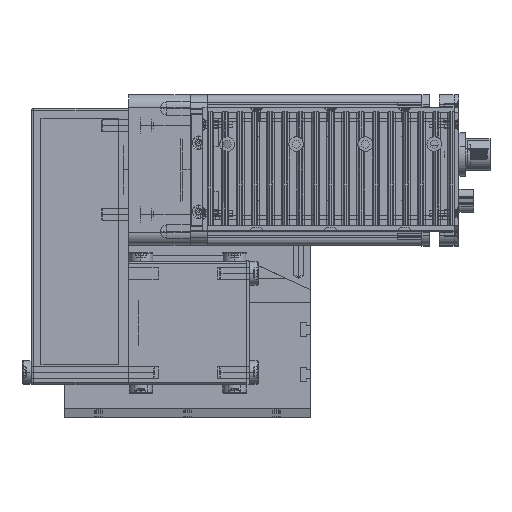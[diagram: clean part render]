
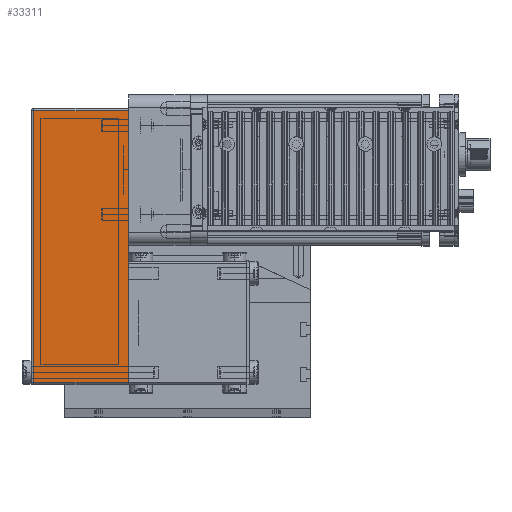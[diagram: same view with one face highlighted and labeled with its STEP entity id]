
A CAD part, top view. The second image highlights one B-rep face of the part: STEP entity #33311.
In plain terms, the highlighted planar face has unit normal (0, 0, 1) as drawn and (0, -1, 0) by its records, which use the part's own axes.
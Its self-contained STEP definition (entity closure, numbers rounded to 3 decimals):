
#9591 = LINE ( 'NONE', #10505, #10483 ) ;
#10481 = DIRECTION ( 'NONE',  ( 0., 0., 1. ) ) ;
#10483 = VECTOR ( 'NONE', #10481, 1000. ) ;
#10505 = CARTESIAN_POINT ( 'NONE',  ( -49., -25., 39.5 ) ) ;
#10674 = CARTESIAN_POINT ( 'NONE',  ( -49., -25., 0. ) ) ;
#10675 = CARTESIAN_POINT ( 'NONE',  ( -49., -25., 38.5 ) ) ;
#10814 = CARTESIAN_POINT ( 'NONE',  ( 61., -25., 38.5 ) ) ;
#10841 = CARTESIAN_POINT ( 'NONE',  ( 61., -25., 0. ) ) ;
#10852 = CARTESIAN_POINT ( 'NONE',  ( 61., -25., 39.5 ) ) ;
#10894 = DIRECTION ( 'NONE',  ( 0., 0., -1. ) ) ;
#10895 = VECTOR ( 'NONE', #10894, 1000. ) ;
#10902 = LINE ( 'NONE', #10852, #10895 ) ;
#11037 = LINE ( 'NONE', #11080, #11124 ) ;
#11079 = DIRECTION ( 'NONE',  ( 1., 0., 0. ) ) ;
#11080 = CARTESIAN_POINT ( 'NONE',  ( -50., -25., 38.5 ) ) ;
#11082 = FACE_OUTER_BOUND ( 'NONE', #33213, .T. ) ;
#11088 = PLANE ( 'NONE',  #11126 ) ;
#11116 = DIRECTION ( 'NONE',  ( 0., 0., 1. ) ) ;
#11117 = DIRECTION ( 'NONE',  ( 0., 1., 0. ) ) ;
#11122 = CARTESIAN_POINT ( 'NONE',  ( -50., -25., 39.5 ) ) ;
#11124 = VECTOR ( 'NONE', #11079, 1000. ) ;
#11126 = AXIS2_PLACEMENT_3D ( 'NONE', #11122, #11117, #11116 ) ;
#11149 = DIRECTION ( 'NONE',  ( 1., 0., 0. ) ) ;
#11150 = VECTOR ( 'NONE', #11149, 1000. ) ;
#11151 = CARTESIAN_POINT ( 'NONE',  ( -50., -25., 0. ) ) ;
#11164 = LINE ( 'NONE', #11151, #11150 ) ;
#32960 = VERTEX_POINT ( 'NONE', #10674 ) ;
#32963 = VERTEX_POINT ( 'NONE', #10675 ) ;
#33060 = EDGE_CURVE ( 'NONE', #32960, #32963, #9591, .T. ) ;
#33072 = VERTEX_POINT ( 'NONE', #10814 ) ;
#33102 = VERTEX_POINT ( 'NONE', #10841 ) ;
#33170 = EDGE_CURVE ( 'NONE', #33072, #33102, #10902, .T. ) ;
#33213 = EDGE_LOOP ( 'NONE', ( #33344, #33309, #33308, #33267 ) ) ;
#33267 = ORIENTED_EDGE ( 'NONE', *, *, #33306, .F. ) ;
#33306 = EDGE_CURVE ( 'NONE', #32963, #33072, #11037, .T. ) ;
#33308 = ORIENTED_EDGE ( 'NONE', *, *, #33170, .F. ) ;
#33309 = ORIENTED_EDGE ( 'NONE', *, *, #33340, .T. ) ;
#33311 = ADVANCED_FACE ( 'NONE', ( #11082 ), #11088, .F. ) ;
#33340 = EDGE_CURVE ( 'NONE', #32960, #33102, #11164, .T. ) ;
#33344 = ORIENTED_EDGE ( 'NONE', *, *, #33060, .F. ) ;
